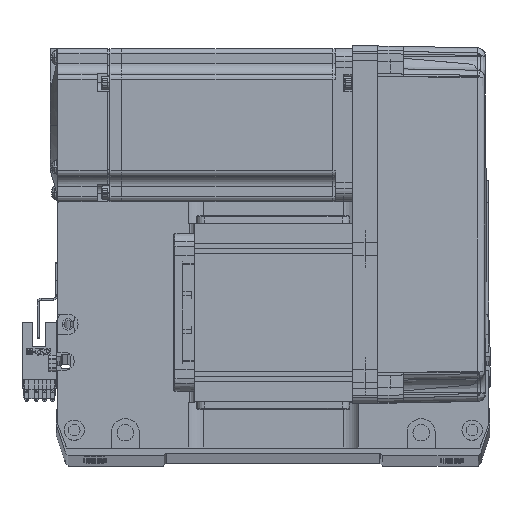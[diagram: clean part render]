
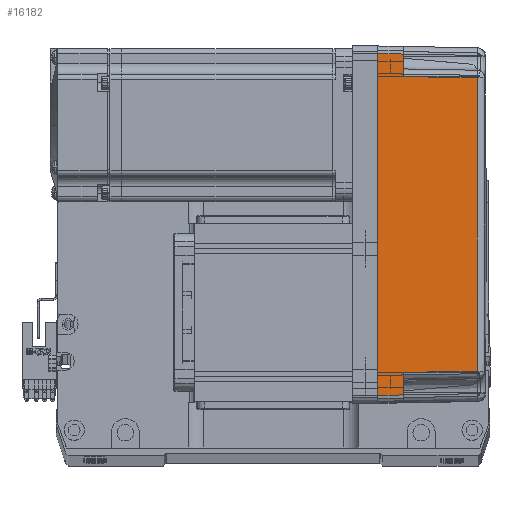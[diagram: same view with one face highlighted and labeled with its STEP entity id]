
A CAD part, top view. The second image highlights one B-rep face of the part: STEP entity #16182.
In plain terms, the highlighted planar face has unit normal (0.018, 0, 1) as drawn and (0, -1, 0.017) by its records, which use the part's own axes.
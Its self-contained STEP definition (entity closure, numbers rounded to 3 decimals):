
#1098 = ORIENTED_EDGE ( 'NONE', *, *, #18946, .T. ) ;
#1384 = EDGE_CURVE ( 'NONE', #51331, #58575, #35354, .T. ) ;
#3167 = CARTESIAN_POINT ( 'NONE',  ( -67., -36., 0. ) ) ;
#3615 = ORIENTED_EDGE ( 'NONE', *, *, #1384, .T. ) ;
#3983 = EDGE_CURVE ( 'NONE', #36782, #29488, #41734, .T. ) ;
#8656 = VECTOR ( 'NONE', #24615, 1000. ) ;
#9692 = CARTESIAN_POINT ( 'NONE',  ( 57.495, -35.32, 38.985 ) ) ;
#11675 = ORIENTED_EDGE ( 'NONE', *, *, #32450, .T. ) ;
#12013 = CARTESIAN_POINT ( 'NONE',  ( 70., -35.825, 10. ) ) ;
#13329 = VECTOR ( 'NONE', #61920, 1000. ) ;
#14635 = CARTESIAN_POINT ( 'NONE',  ( 66.826, -35.825, 10. ) ) ;
#14665 = CARTESIAN_POINT ( 'NONE',  ( 67., -36., 0. ) ) ;
#15632 = VERTEX_POINT ( 'NONE', #53467 ) ;
#15924 = EDGE_CURVE ( 'NONE', #56146, #15632, #26429, .T. ) ;
#16182 = ADVANCED_FACE ( 'NONE', ( #64819 ), #22562, .T. ) ;
#18450 = EDGE_LOOP ( 'NONE', ( #37288, #11675, #1098, #53647, #42651, #3615, #58755, #42510 ) ) ;
#18946 = EDGE_CURVE ( 'NONE', #43341, #56146, #44486, .T. ) ;
#19746 = CARTESIAN_POINT ( 'NONE',  ( -57.495, -35.32, 38.985 ) ) ;
#20554 = CARTESIAN_POINT ( 'NONE',  ( -66.959, -35.958, 2.39 ) ) ;
#22547 = CARTESIAN_POINT ( 'NONE',  ( 0., -36., 0. ) ) ;
#22562 = PLANE ( 'NONE',  #23464 ) ;
#23464 = AXIS2_PLACEMENT_3D ( 'NONE', #28142, #33255, #43412 ) ;
#24615 = DIRECTION ( 'NONE',  ( -0.017, -0.017, -1. ) ) ;
#24941 = DIRECTION ( 'NONE',  ( -0.017, 0.017, 1. ) ) ;
#26050 = LINE ( 'NONE', #19746, #8656 ) ;
#26429 = B_SPLINE_CURVE_WITH_KNOTS ( 'NONE', 3,
 ( #9692, #67960, #46937, #36336 ),
 .UNSPECIFIED., .F., .F.,
 ( 4, 4 ),
 ( 0., 1. ),
 .UNSPECIFIED. ) ;
#28142 = CARTESIAN_POINT ( 'NONE',  ( 70., -36., 0. ) ) ;
#29271 = CARTESIAN_POINT ( 'NONE',  ( 70., -35.825, 10. ) ) ;
#29488 = VERTEX_POINT ( 'NONE', #14635 ) ;
#29641 = LINE ( 'NONE', #22547, #52010 ) ;
#29865 = LINE ( 'NONE', #20554, #13329 ) ;
#31935 = LINE ( 'NONE', #12013, #34396 ) ;
#32450 = EDGE_CURVE ( 'NONE', #29488, #43341, #31935, .T. ) ;
#32619 = EDGE_CURVE ( 'NONE', #15632, #51331, #26050, .T. ) ;
#33255 = DIRECTION ( 'NONE',  ( 0., -1., 0.017 ) ) ;
#33512 = VERTEX_POINT ( 'NONE', #3167 ) ;
#34396 = VECTOR ( 'NONE', #65165, 1000. ) ;
#35354 = LINE ( 'NONE', #29271, #42763 ) ;
#36336 = CARTESIAN_POINT ( 'NONE',  ( -57.495, -35.32, 38.985 ) ) ;
#36782 = VERTEX_POINT ( 'NONE', #14665 ) ;
#37288 = ORIENTED_EDGE ( 'NONE', *, *, #3983, .T. ) ;
#38120 = DIRECTION ( 'NONE',  ( -1., 0., 0. ) ) ;
#39057 = DIRECTION ( 'NONE',  ( -0.017, 0.017, 1. ) ) ;
#39685 = DIRECTION ( 'NONE',  ( -1., 0., 0. ) ) ;
#41734 = LINE ( 'NONE', #49664, #49099 ) ;
#42510 = ORIENTED_EDGE ( 'NONE', *, *, #48850, .F. ) ;
#42651 = ORIENTED_EDGE ( 'NONE', *, *, #32619, .T. ) ;
#42763 = VECTOR ( 'NONE', #39685, 1000. ) ;
#43341 = VERTEX_POINT ( 'NONE', #58673 ) ;
#43412 = DIRECTION ( 'NONE',  ( 0., -0.017, -1. ) ) ;
#44486 = LINE ( 'NONE', #60068, #46160 ) ;
#46160 = VECTOR ( 'NONE', #39057, 1000. ) ;
#46448 = EDGE_CURVE ( 'NONE', #33512, #58575, #29865, .T. ) ;
#46937 = CARTESIAN_POINT ( 'NONE',  ( -19.165, -35.316, 39.181 ) ) ;
#48850 = EDGE_CURVE ( 'NONE', #36782, #33512, #29641, .T. ) ;
#49099 = VECTOR ( 'NONE', #24941, 1000. ) ;
#49664 = CARTESIAN_POINT ( 'NONE',  ( 67., -36., 0. ) ) ;
#51275 = CARTESIAN_POINT ( 'NONE',  ( 57.495, -35.32, 38.985 ) ) ;
#51331 = VERTEX_POINT ( 'NONE', #54290 ) ;
#52010 = VECTOR ( 'NONE', #38120, 1000. ) ;
#53467 = CARTESIAN_POINT ( 'NONE',  ( -57.495, -35.32, 38.985 ) ) ;
#53647 = ORIENTED_EDGE ( 'NONE', *, *, #15924, .T. ) ;
#54290 = CARTESIAN_POINT ( 'NONE',  ( -58., -35.825, 10. ) ) ;
#56146 = VERTEX_POINT ( 'NONE', #51275 ) ;
#58575 = VERTEX_POINT ( 'NONE', #65026 ) ;
#58673 = CARTESIAN_POINT ( 'NONE',  ( 58., -35.825, 10. ) ) ;
#58755 = ORIENTED_EDGE ( 'NONE', *, *, #46448, .F. ) ;
#60068 = CARTESIAN_POINT ( 'NONE',  ( 58., -35.825, 10. ) ) ;
#61920 = DIRECTION ( 'NONE',  ( 0.017, 0.017, 1. ) ) ;
#64819 = FACE_OUTER_BOUND ( 'NONE', #18450, .T. ) ;
#65026 = CARTESIAN_POINT ( 'NONE',  ( -66.826, -35.825, 10. ) ) ;
#65165 = DIRECTION ( 'NONE',  ( -1., 0., 0. ) ) ;
#67960 = CARTESIAN_POINT ( 'NONE',  ( 19.165, -35.316, 39.181 ) ) ;
